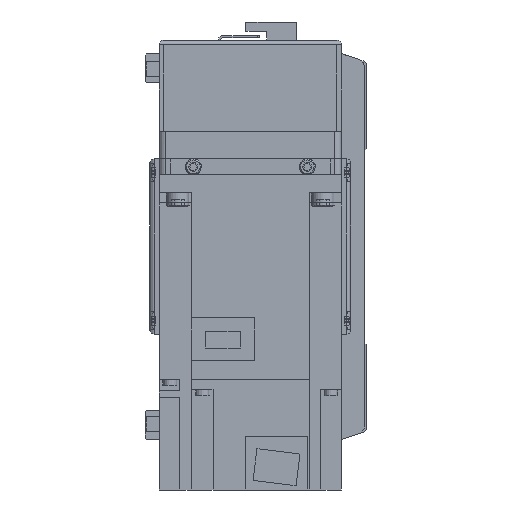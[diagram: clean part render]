
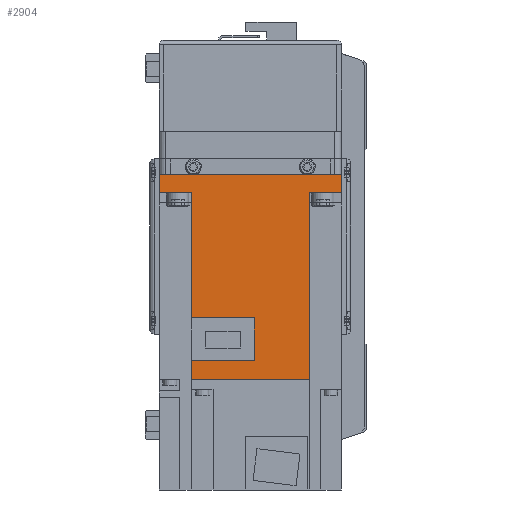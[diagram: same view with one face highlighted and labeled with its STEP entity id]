
A CAD part, left-side view. The second image highlights one B-rep face of the part: STEP entity #2904.
In plain terms, the highlighted planar face has unit normal (-1, 0, 0) as drawn and (1, 0, 0) by its records, which use the part's own axes.
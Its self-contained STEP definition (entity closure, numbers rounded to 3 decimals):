
#2904 = ADVANCED_FACE( '', ( #6341 ), #6342, .F. );
#6341 = FACE_OUTER_BOUND( '', #10145, .T. );
#6342 = PLANE( '', #10146 );
#10145 = EDGE_LOOP( '', ( #18220, #18221, #18222, #18223, #18224, #18225, #18226, #18227, #18228, #18229, #18230, #18231 ) );
#10146 = AXIS2_PLACEMENT_3D( '', #18232, #18233, #18234 );
#18220 = ORIENTED_EDGE( '', *, *, #21364, .F. );
#18221 = ORIENTED_EDGE( '', *, *, #22697, .F. );
#18222 = ORIENTED_EDGE( '', *, *, #23641, .F. );
#18223 = ORIENTED_EDGE( '', *, *, #23712, .T. );
#18224 = ORIENTED_EDGE( '', *, *, #23523, .F. );
#18225 = ORIENTED_EDGE( '', *, *, #23162, .T. );
#18226 = ORIENTED_EDGE( '', *, *, #24480, .T. );
#18227 = ORIENTED_EDGE( '', *, *, #24254, .F. );
#18228 = ORIENTED_EDGE( '', *, *, #24478, .F. );
#18229 = ORIENTED_EDGE( '', *, *, #22699, .F. );
#18230 = ORIENTED_EDGE( '', *, *, #22926, .F. );
#18231 = ORIENTED_EDGE( '', *, *, #24299, .F. );
#18232 = CARTESIAN_POINT( '', ( 40., 89.8, 40. ) );
#18233 = DIRECTION( '', ( -1., 0., 0. ) );
#18234 = DIRECTION( '', ( 0., 0., 1. ) );
#21364 = EDGE_CURVE( '', #25359, #25361, #25362, .T. );
#22697 = EDGE_CURVE( '', #27602, #25359, #27604, .T. );
#22699 = EDGE_CURVE( '', #27605, #27607, #27608, .T. );
#22926 = EDGE_CURVE( '', #27966, #27605, #27967, .T. );
#23162 = EDGE_CURVE( '', #28341, #28339, #28342, .T. );
#23523 = EDGE_CURVE( '', #28341, #28881, #28882, .T. );
#23641 = EDGE_CURVE( '', #29052, #27602, #29054, .T. );
#23712 = EDGE_CURVE( '', #29052, #28881, #29160, .T. );
#24254 = EDGE_CURVE( '', #29880, #29882, #29883, .T. );
#24299 = EDGE_CURVE( '', #25361, #27966, #29943, .T. );
#24478 = EDGE_CURVE( '', #27607, #29880, #30165, .T. );
#24480 = EDGE_CURVE( '', #28339, #29882, #30167, .T. );
#25359 = VERTEX_POINT( '', #31331 );
#25361 = VERTEX_POINT( '', #31334 );
#25362 = LINE( '', #31335, #31336 );
#27602 = VERTEX_POINT( '', #34901 );
#27604 = LINE( '', #34904, #34905 );
#27605 = VERTEX_POINT( '', #34906 );
#27607 = VERTEX_POINT( '', #34909 );
#27608 = LINE( '', #34910, #34911 );
#27966 = VERTEX_POINT( '', #35421 );
#27967 = LINE( '', #35422, #35423 );
#28339 = VERTEX_POINT( '', #35965 );
#28341 = VERTEX_POINT( '', #35968 );
#28342 = LINE( '', #35969, #35970 );
#28881 = VERTEX_POINT( '', #36749 );
#28882 = LINE( '', #36750, #36751 );
#29052 = VERTEX_POINT( '', #36987 );
#29054 = LINE( '', #36990, #36991 );
#29160 = LINE( '', #37150, #37151 );
#29880 = VERTEX_POINT( '', #38272 );
#29882 = VERTEX_POINT( '', #38275 );
#29883 = LINE( '', #38276, #38277 );
#29943 = LINE( '', #38391, #38392 );
#30165 = LINE( '', #38831, #38832 );
#30167 = LINE( '', #38834, #38835 );
#31331 = CARTESIAN_POINT( '', ( 40., 81.4, -25.95 ) );
#31334 = CARTESIAN_POINT( '', ( 40., 81.4, 1.8 ) );
#31335 = CARTESIAN_POINT( '', ( 40., 81.4, -26. ) );
#31336 = VECTOR( '', #40146, 1000. );
#34901 = CARTESIAN_POINT( '', ( 40., 89.8, -25.95 ) );
#34904 = CARTESIAN_POINT( '', ( 40., 158., -25.95 ) );
#34905 = VECTOR( '', #41882, 1000. );
#34906 = CARTESIAN_POINT( '', ( 40., 62.8, -25.95 ) );
#34909 = CARTESIAN_POINT( '', ( 40., 8., -25.95 ) );
#34910 = CARTESIAN_POINT( '', ( 40., 158., -25.95 ) );
#34911 = VECTOR( '', #41884, 1000. );
#35421 = CARTESIAN_POINT( '', ( 40., 62.8, 1.8 ) );
#35422 = CARTESIAN_POINT( '', ( 40., 62.8, 1.8 ) );
#35423 = VECTOR( '', #42157, 1000. );
#35965 = CARTESIAN_POINT( '', ( 40., 0., 40. ) );
#35968 = CARTESIAN_POINT( '', ( 40., 8., 40. ) );
#35969 = CARTESIAN_POINT( '', ( 40., 89.8, 40. ) );
#35970 = VECTOR( '', #42452, 1000. );
#36749 = CARTESIAN_POINT( '', ( 40., 8., 25.95 ) );
#36750 = CARTESIAN_POINT( '', ( 40., 8., 40. ) );
#36751 = VECTOR( '', #42896, 1000. );
#36987 = CARTESIAN_POINT( '', ( 40., 89.8, 25.95 ) );
#36990 = CARTESIAN_POINT( '', ( 40., 89.8, 40. ) );
#36991 = VECTOR( '', #43077, 1000. );
#37150 = CARTESIAN_POINT( '', ( 40., 158., 25.95 ) );
#37151 = VECTOR( '', #43144, 1000. );
#38272 = CARTESIAN_POINT( '', ( 40., 8., -40. ) );
#38275 = CARTESIAN_POINT( '', ( 40., 0., -40. ) );
#38276 = CARTESIAN_POINT( '', ( 40., 89.8, -40. ) );
#38277 = VECTOR( '', #43703, 1000. );
#38391 = CARTESIAN_POINT( '', ( 40., 81.4, 1.8 ) );
#38392 = VECTOR( '', #43747, 1000. );
#38831 = CARTESIAN_POINT( '', ( 40., 8., 40. ) );
#38832 = VECTOR( '', #43912, 1000. );
#38834 = CARTESIAN_POINT( '', ( 40., 0., 40. ) );
#38835 = VECTOR( '', #43913, 1000. );
#40146 = DIRECTION( '', ( 0., 0., 1. ) );
#41882 = DIRECTION( '', ( 0., -1., 0. ) );
#41884 = DIRECTION( '', ( 0., -1., 0. ) );
#42157 = DIRECTION( '', ( 0., 0., -1. ) );
#42452 = DIRECTION( '', ( 0., -1., 0. ) );
#42896 = DIRECTION( '', ( 0., 0., -1. ) );
#43077 = DIRECTION( '', ( 0., 0., -1. ) );
#43144 = DIRECTION( '', ( 0., -1., 0. ) );
#43703 = DIRECTION( '', ( 0., -1., 0. ) );
#43747 = DIRECTION( '', ( 0., -1., 0. ) );
#43912 = DIRECTION( '', ( 0., 0., -1. ) );
#43913 = DIRECTION( '', ( 0., 0., -1. ) );
